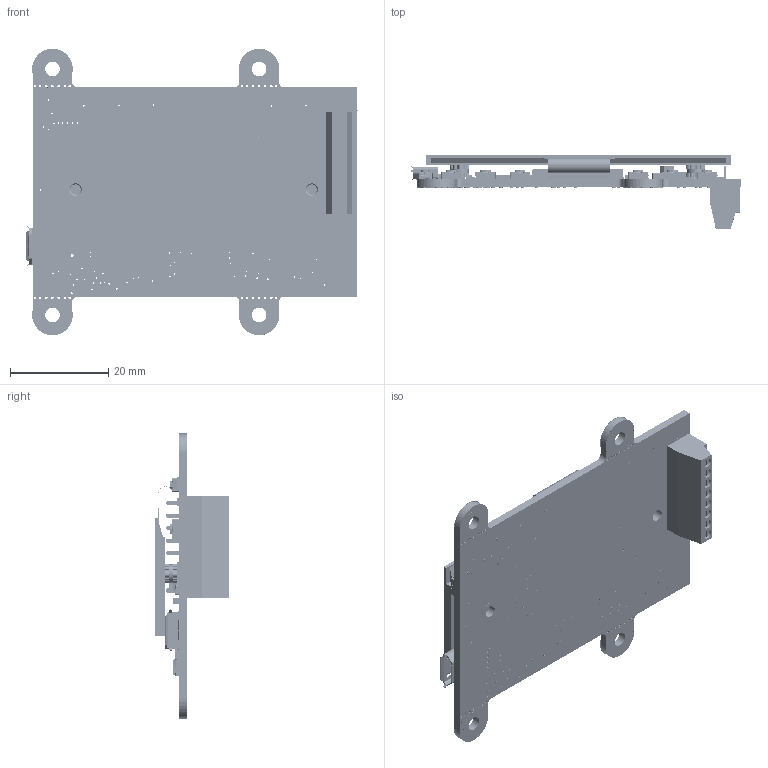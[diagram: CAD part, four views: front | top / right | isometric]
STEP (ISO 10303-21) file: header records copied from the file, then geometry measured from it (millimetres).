
FILE_DESCRIPTION (( 'STEP AP214' ), '1' );
FILE_NAME ('yoctodisplay6.STEP', '2014-01-28T10:11:04', ( 'martinm' ), ( '' ), 'SwSTEP 2.0', 'SolidWorks 2008', '' );
FILE_SCHEMA (( 'AUTOMOTIVE_DESIGN' ));
Length unit declared in the file: millimetre
Products named in the file (39): PCB; C1; C2-BOOST; C12; C15; C16; C18; C19; C20; C31; CF-BOOST; CPU1; D1; FLASH1; I1; IC1; P1; P3; R1; R2-A; R3; R7; R12; R14; R15; R18; R20; R28; R29; REG2; T1; USB1; YLED; Ybutton; sens1; DD12832YW-1A; with_insert; BN_1036_1385496; yoctodisplay6
Assembly tree (73 placements, depth 3):
  yoctodisplay6
    R18  x3
    R12
    C20  x10
    Ybutton  x7
    YLED
    C2-BOOST
    FLASH1
    R2-A
    R14  x7
    R15
    R7  x2
    CF-BOOST
    R20  x4
    REG2  x2
    USB1
    C16  x2
    C18  x2
    with_insert  x2
      BN_1036_1385496
    C19  x2
    R3  x2
    C31  x2
    R1
    R29
    DD12832YW-1A
    P3
    C15  x2
    I1
    IC1
    P1
    T1
    C1
    C12
    PCB
    CPU1
    D1
    R28
    sens1
Bounding box: 67.33 x 15.13 x 58.25 mm (x, y, z)
Volume: 8929 mm3; surface area: 18659 mm2
Topology: 136 solids, 136 shells, 10870 faces, 28116 edges, 18250 vertices
Faces by surface type: plane 6666, cylinder 3063, bspline 890, sphere 192, torus 51, cone 8
Entity records: 355945 total; most frequent: CARTESIAN_POINT 82477, ORIENTED_EDGE 41140, DIRECTION 38663, EDGE_CURVE 20570, LINE 14565, VECTOR 14565, VERTEX_POINT 13564, AXIS2_PLACEMENT_3D 12049
